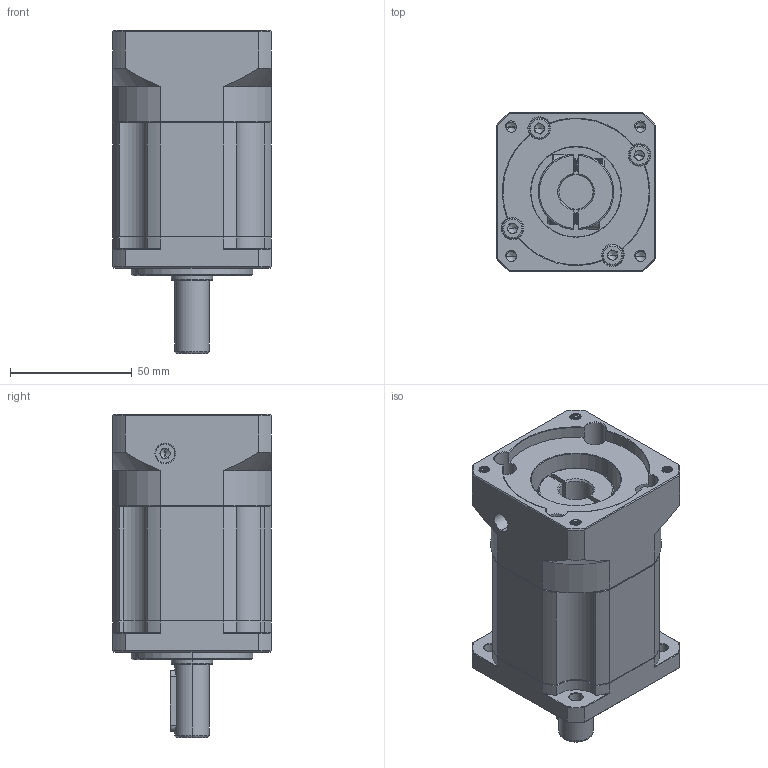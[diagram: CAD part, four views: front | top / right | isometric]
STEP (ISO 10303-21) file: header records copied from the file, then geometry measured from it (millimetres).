
FILE_DESCRIPTION (( 'STEP AP214' ), '1' );
FILE_NAME ('ZB60-D14-L2-14-60-75-M5.STEP', '2022-04-17T07:37:24', ( '' ), ( 'Microsoft' ), 'SwSTEP 2.0', 'SolidWorks 2016', '' );
FILE_SCHEMA (( 'AUTOMOTIVE_DESIGN' ));
Length unit declared in the file: millimetre
Products named in the file (1): ZB60-D14-L2-14-60-75-M5
Bounding box: 65 x 65 x 132.5 mm (x, y, z)
Volume: 325200.8 mm3; surface area: 58432.6 mm2
Topology: 6 solids, 6 shells, 1894 faces, 5036 edges, 3221 vertices
Faces by surface type: plane 879, cylinder 396, bspline 299, cone 284, torus 36
Entity records: 102095 total; most frequent: CARTESIAN_POINT 36598, ORIENTED_EDGE 10012, DIRECTION 8205, EDGE_CURVE 5006, VERTEX_POINT 3221, LINE 3037, VECTOR 3037, AXIS2_PLACEMENT_3D 2584
